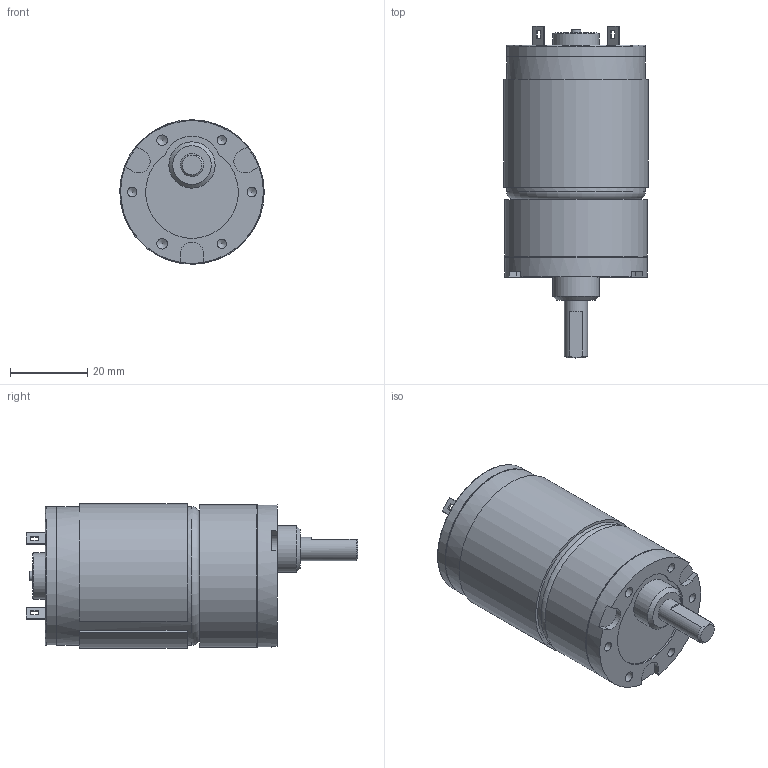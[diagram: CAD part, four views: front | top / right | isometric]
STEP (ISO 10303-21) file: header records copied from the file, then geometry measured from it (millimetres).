
FILE_DESCRIPTION((''),'2;1');
FILE_NAME('C:\Documents and Settings\SSEGAWA\デスクトップ\TP-3640B-KS-2.STP','2013-07-18T17:02:28',('SSEGAWA'),(''),'Autodesk Inventor 2010','Autodesk Inventor 2010','');
FILE_SCHEMA(('CONFIG_CONTROL_DESIGN'));
Length unit declared in the file: millimetre
Products named in the file (1): tp_3640bce_ks_2_Shrinkwrap_1
Bounding box: 37.5 x 86.1 x 37.5 mm (x, y, z)
Volume: 65522 mm3; surface area: 11002.5 mm2
Topology: 4 solids, 4 shells, 100 faces, 234 edges, 155 vertices
Faces by surface type: plane 56, bspline 20, cylinder 18, cone 3, torus 3
Full cylindrical faces by diameter (mm): 2.5 x1, 4 x1, 4.5 x1, 6 x1, 12 x2, 35.6 x1, 36 x2, 36.6 x1, 37 x2
Entity records: 2839 total; most frequent: CARTESIAN_POINT 698, DIRECTION 403, ORIENTED_EDGE 354, EDGE_CURVE 177, EDGE_LOOP 151, AXIS2_PLACEMENT_3D 147, VERTEX_POINT 132, VECTOR 109
